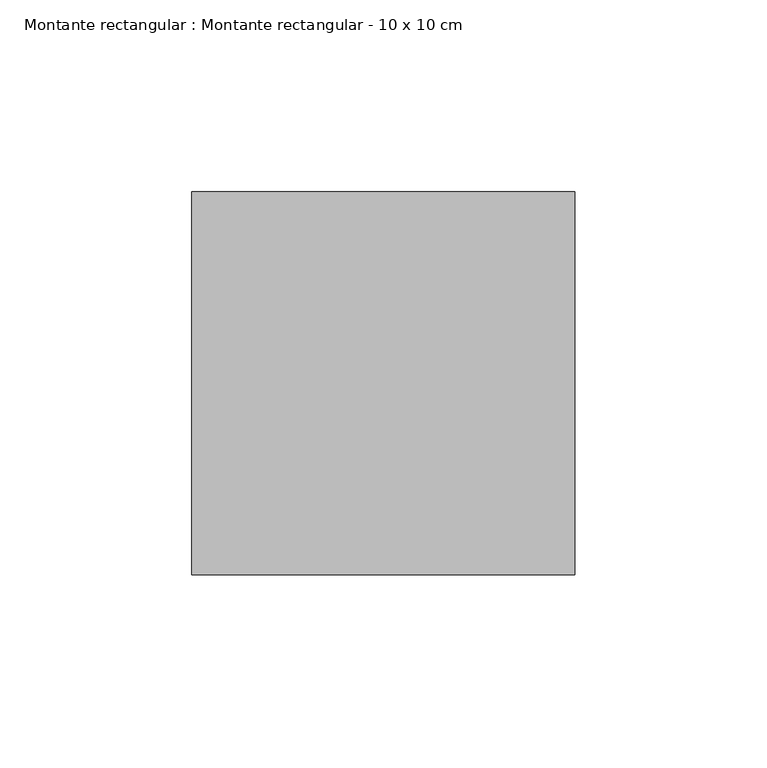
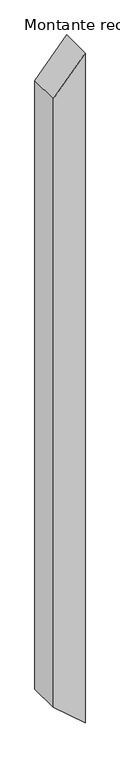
"""IFC4 building model written with IfcOpenShell, lengths in millimetres: member geometry, Montante rectangular : Montante rectangular - 10 x 10 cm."""

from ifc_helpers import new_model, si_unit, frame, origin, place, context, project, spatial, polyline, outline, extrude, source, transform, mapped, element, save


def montante_rectangular_montante_rectangular_10_x_10_cm_9caafa42(model_context):
    return source(origin(), model_context, "Body", "SweptSolid", [
        extrude(outline(polyline([(0.0, 0.0), (-117.3114364, -100.0), (-2142.8576097, -100.0), (-2228.1007906, 0.0), (0.0, 0.0)])), frame((0.0, -50.0, 0.0), z_axis=(0.0, 1.0, 0.0), x_axis=(0.0, 0.0, 1.0)), (0.0, 0.0, 1.0), 100.0),
    ])


if __name__ == "__main__":
    model = new_model("IFC4")
    model_context = context("Model", 3, world=origin())
    ifc_project = project(units=[si_unit("LENGTHUNIT", "METRE", prefix="MILLI")], contexts=[model_context])
    site = spatial("IfcSite", under=ifc_project)
    building = spatial("IfcBuilding", under=site)
    placement = place(None, origin())
    montante_rectangular_montante_rectangular_10_x_10_cm_shape = montante_rectangular_montante_rectangular_10_x_10_cm_9caafa42(model_context)
    element("IfcMember", 1, ObjectType="Montante rectangular : Montante rectangular - 10 x 10 cm", at=placement, inside=building, context=model_context, shape_type="MappedRepresentation", body=[
        mapped(montante_rectangular_montante_rectangular_10_x_10_cm_shape, transform((0.0, 0.0, 0.0), x_axis=(1.0, 0.0, 0.0), y_axis=(0.0, 1.0, 0.0), z_axis=(0.0, 0.0, 1.0))),
    ])
    save(model, "model.ifc")
